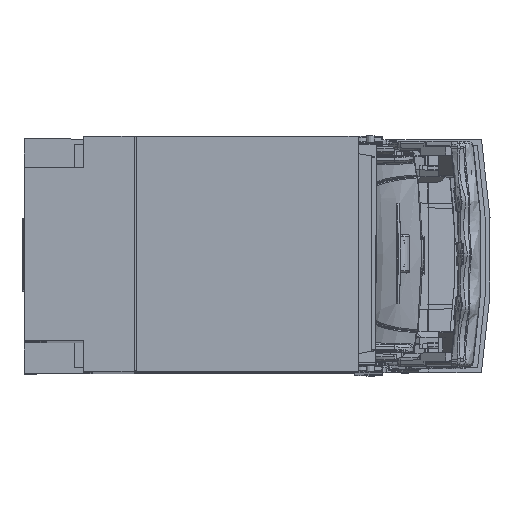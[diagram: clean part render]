
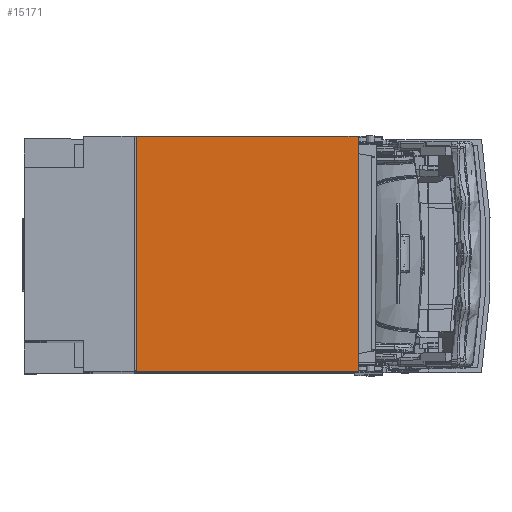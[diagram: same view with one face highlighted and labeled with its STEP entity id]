
A CAD part, top view. The second image highlights one B-rep face of the part: STEP entity #15171.
In plain terms, the highlighted planar face has unit normal (0, 0, 1).
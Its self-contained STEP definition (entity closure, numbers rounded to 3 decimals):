
#5763=PLANE('',#134777);
#15171=ADVANCED_FACE('',(#24596),#5763,.F.);
#24596=FACE_OUTER_BOUND('',#32049,.T.);
#32049=EDGE_LOOP('',(#84204,#84205,#84206,#84207));
#39825=LINE('',#283900,#47525);
#39864=LINE('',#283982,#47564);
#39865=LINE('',#283984,#47565);
#39866=LINE('',#283986,#47566);
#47525=VECTOR('',#159450,1.);
#47564=VECTOR('',#159569,1.);
#47565=VECTOR('',#159570,1.);
#47566=VECTOR('',#159571,1.);
#84204=ORIENTED_EDGE('',*,*,#116946,.T.);
#84205=ORIENTED_EDGE('',*,*,#116991,.F.);
#84206=ORIENTED_EDGE('',*,*,#116992,.F.);
#84207=ORIENTED_EDGE('',*,*,#116993,.F.);
#98011=VERTEX_POINT('',#283899);
#98012=VERTEX_POINT('',#283901);
#98015=VERTEX_POINT('',#283983);
#98016=VERTEX_POINT('',#283985);
#116946=EDGE_CURVE('',#98012,#98011,#39825,.T.);
#116991=EDGE_CURVE('',#98015,#98011,#39864,.T.);
#116992=EDGE_CURVE('',#98016,#98015,#39865,.T.);
#116993=EDGE_CURVE('',#98012,#98016,#39866,.T.);
#134777=AXIS2_PLACEMENT_3D('',#283987,#159572,#159573);
#159450=DIRECTION('',(0.,-1.,0.));
#159569=DIRECTION('',(-1.,0.,0.));
#159570=DIRECTION('',(0.,-1.,0.));
#159571=DIRECTION('',(1.,0.,0.));
#159572=DIRECTION('',(0.,0.,-1.));
#159573=DIRECTION('',(0.,1.,0.));
#283899=CARTESIAN_POINT('',(47.2,-49.5,292.));
#283900=CARTESIAN_POINT('',(47.2,49.3,292.));
#283901=CARTESIAN_POINT('',(47.2,49.5,292.));
#283982=CARTESIAN_POINT('',(152.,-49.5,292.));
#283983=CARTESIAN_POINT('',(140.5,-49.5,292.));
#283984=CARTESIAN_POINT('',(140.5,49.5,292.));
#283985=CARTESIAN_POINT('',(140.5,49.5,292.));
#283986=CARTESIAN_POINT('',(152.,49.5,292.));
#283987=CARTESIAN_POINT('',(152.,49.5,292.));
